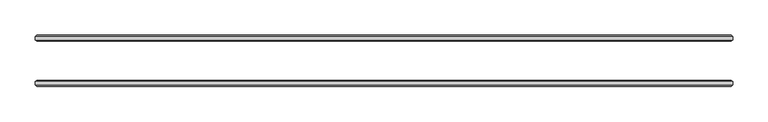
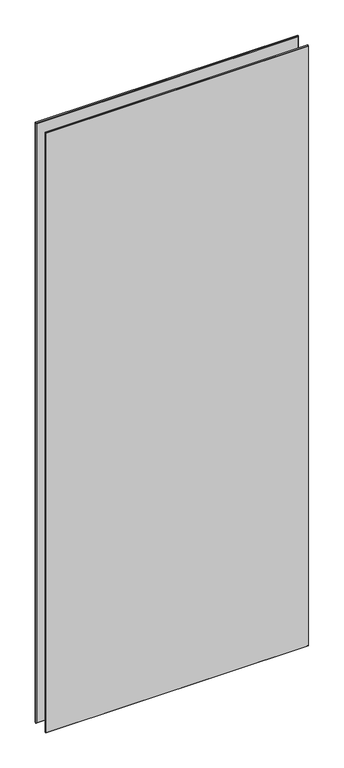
"""IFC4 building model written with IfcOpenShell, lengths in millimetres: plate geometry, 3-AMG-2-Панель двойной витраж 8, 10 : Смещение 32 Толщина 8mm."""

from ifc_helpers import new_model, si_unit, origin, place, context, project, spatial, faceted_brep, source, transform, mapped, element, save


def plate_b4419c6d(model_context):
    return source(origin(), model_context, "Body", "Brep", [
        faceted_brep([(491.2682676, -34.4961653, 2362.0376562), (491.2682676, -29.5038347, 2362.0376562), (-491.2682676, -29.5038347, 2362.0376562), (-491.2682676, -34.4961653, 2362.0376562), (491.2682676, -29.5038347, -7.0), (491.2682676, -34.4961653, -7.0), (-491.2682676, -34.4961653, -7.0), (-491.2682676, -29.5038347, -7.0), (-489.7644328, -28.0, 2360.5338215), (489.7644328, -28.0, 2360.5338215), (489.7644328, -28.0, -5.5039422), (-489.7644328, -28.0, -5.5039422), (489.7644328, -36.0, 2360.5338215), (-489.7644328, -36.0, 2360.5338215), (-489.7644328, -36.0, -5.4961653), (489.7644328, -36.0, -5.4961653)], [[[0, 1, 2, 3]], [[4, 5, 6, 7]], [[8, 9, 10, 11]], [[3, 2, 7, 6]], [[12, 13, 14, 15]], [[1, 0, 5, 4]], [[1, 4, 10, 9]], [[5, 0, 12, 15]], [[0, 3, 13, 12]], [[2, 1, 9, 8]], [[7, 2, 8, 11]], [[3, 6, 14, 13]], [[6, 5, 15, 14]], [[4, 7, 11, 10]]]),
        faceted_brep([(491.2682676, 29.5038347, 2362.0376562), (491.2682676, 34.4961653, 2362.0376562), (-491.2682676, 34.4961653, 2362.0376562), (-491.2682676, 29.5038347, 2362.0376562), (491.2682676, 34.4961653, -7.0), (491.2682676, 29.5038347, -7.0), (-491.2682676, 29.5038347, -7.0), (-491.2682676, 34.4961653, -7.0), (-489.7644328, 36.0, 2360.5338215), (489.7644328, 36.0, 2360.5338215), (489.7644328, 36.0, -5.5039422), (-489.7644328, 36.0, -5.5039422), (489.7644328, 28.0, 2360.5338215), (-489.7644328, 28.0, 2360.5338215), (-489.7644328, 28.0, -5.4961653), (489.7644328, 28.0, -5.4961653)], [[[0, 1, 2, 3]], [[4, 5, 6, 7]], [[8, 9, 10, 11]], [[3, 2, 7, 6]], [[12, 13, 14, 15]], [[1, 0, 5, 4]], [[1, 4, 10, 9]], [[5, 0, 12, 15]], [[7, 2, 8, 11]], [[3, 6, 14, 13]], [[0, 3, 13, 12]], [[2, 1, 9, 8]], [[6, 5, 15, 14]], [[4, 7, 11, 10]]]),
    ])


if __name__ == "__main__":
    model = new_model("IFC4")
    model_context = context("Model", 3, world=origin())
    ifc_project = project(units=[si_unit("LENGTHUNIT", "METRE", prefix="MILLI")], contexts=[model_context])
    site = spatial("IfcSite", under=ifc_project)
    building = spatial("IfcBuilding", under=site)
    placement = place(None, origin())
    plate_shape = plate_b4419c6d(model_context)
    element("IfcPlate", 1, ObjectType="3-AMG-2-Панель двойной витраж 8, 10 : Смещение 32 Толщина 8mm", at=placement, inside=building, context=model_context, shape_type="MappedRepresentation", body=[
        mapped(plate_shape, transform((0.0, 0.0, 0.0), x_axis=(1.0, 0.0, 0.0), y_axis=(0.0, 1.0, 0.0), z_axis=(0.0, 0.0, 1.0))),
    ])
    save(model, "model.ifc")
